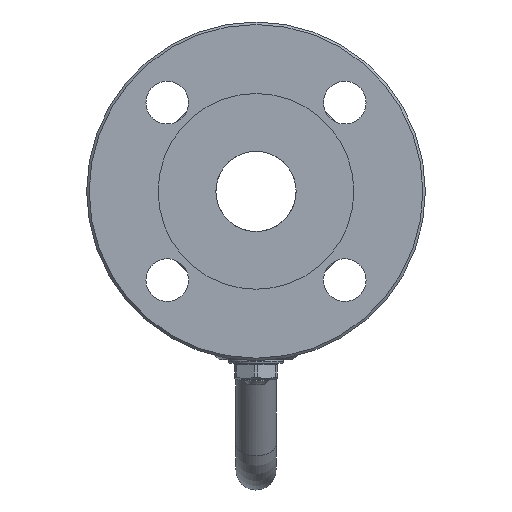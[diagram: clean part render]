
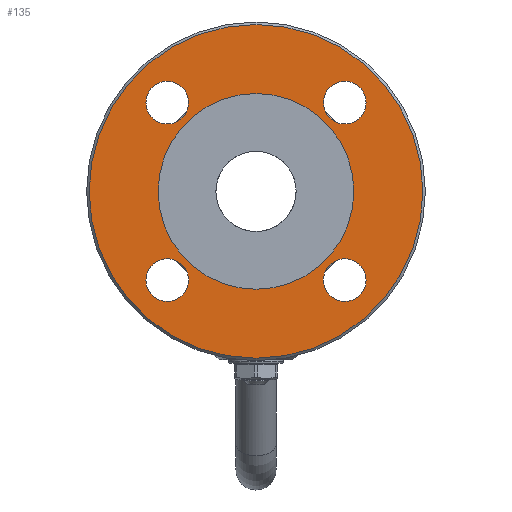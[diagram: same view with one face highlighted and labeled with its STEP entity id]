
A CAD part, left-side view. The second image highlights one B-rep face of the part: STEP entity #135.
In plain terms, the highlighted planar face has unit normal (-1, 0, 0).
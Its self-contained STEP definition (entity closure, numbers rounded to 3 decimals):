
#135=ADVANCED_FACE('',(#1156,#1158,#1160,#1162,#1164,#1166),#1168,.T.);
#1156=FACE_BOUND('',#1157,.T.);
#1157=EDGE_LOOP('',(#2151));
#1158=FACE_BOUND('',#1159,.T.);
#1159=EDGE_LOOP('',(#2152));
#1160=FACE_BOUND('',#1161,.T.);
#1161=EDGE_LOOP('',(#2153));
#1162=FACE_BOUND('',#1163,.T.);
#1163=EDGE_LOOP('',(#2154));
#1164=FACE_BOUND('',#1165,.T.);
#1165=EDGE_LOOP('',(#2155));
#1166=FACE_OUTER_BOUND('',#1167,.T.);
#1167=EDGE_LOOP('',(#2156));
#1168=PLANE('',#1169);
#1169=AXIS2_PLACEMENT_3D('',#1170,#1171,#1172);
#1170=CARTESIAN_POINT('',(-67.,0.,0.));
#1171=DIRECTION('',(-1.,0.,0.));
#1172=DIRECTION('',(0.,-1.,0.));
#2151=ORIENTED_EDGE('',*,*,#3228,.T.);
#2152=ORIENTED_EDGE('',*,*,#3229,.T.);
#2153=ORIENTED_EDGE('',*,*,#3230,.T.);
#2154=ORIENTED_EDGE('',*,*,#3231,.T.);
#2155=ORIENTED_EDGE('',*,*,#3220,.T.);
#2156=ORIENTED_EDGE('',*,*,#3232,.T.);
#3220=EDGE_CURVE('',#3536,#3536,#3538,.T.);
#3228=EDGE_CURVE('',#3550,#3550,#3551,.T.);
#3229=EDGE_CURVE('',#3552,#3552,#3553,.T.);
#3230=EDGE_CURVE('',#3554,#3554,#3555,.T.);
#3231=EDGE_CURVE('',#3556,#3556,#3557,.T.);
#3232=EDGE_CURVE('',#3558,#3558,#3559,.T.);
#3536=VERTEX_POINT('',#4561);
#3538=CIRCLE('',#4565,39.);
#3550=VERTEX_POINT('',#4598);
#3551=CIRCLE('',#4599,8.5);
#3552=VERTEX_POINT('',#4603);
#3553=CIRCLE('',#4604,8.5);
#3554=VERTEX_POINT('',#4608);
#3555=CIRCLE('',#4609,8.5);
#3556=VERTEX_POINT('',#4613);
#3557=CIRCLE('',#4614,8.5);
#3558=VERTEX_POINT('',#4618);
#3559=CIRCLE('',#4619,66.5);
#4561=CARTESIAN_POINT('',(-67.,39.,0.));
#4565=AXIS2_PLACEMENT_3D('',#4566,#4567,#4568);
#4566=CARTESIAN_POINT('',(-67.,0.,0.));
#4567=DIRECTION('',(1.,0.,-0.));
#4568=DIRECTION('',(0.,1.,0.));
#4598=CARTESIAN_POINT('',(-67.,35.355,-43.855));
#4599=AXIS2_PLACEMENT_3D('',#4600,#4601,#4602);
#4600=CARTESIAN_POINT('',(-67.,35.355,-35.355));
#4601=DIRECTION('',(1.,0.,-0.));
#4602=DIRECTION('',(0.,0.,-1.));
#4603=CARTESIAN_POINT('',(-67.,43.855,35.355));
#4604=AXIS2_PLACEMENT_3D('',#4605,#4606,#4607);
#4605=CARTESIAN_POINT('',(-67.,35.355,35.355));
#4606=DIRECTION('',(1.,0.,-0.));
#4607=DIRECTION('',(0.,1.,0.));
#4608=CARTESIAN_POINT('',(-67.,-35.355,43.855));
#4609=AXIS2_PLACEMENT_3D('',#4610,#4611,#4612);
#4610=CARTESIAN_POINT('',(-67.,-35.355,35.355));
#4611=DIRECTION('',(1.,0.,-0.));
#4612=DIRECTION('',(0.,0.,1.));
#4613=CARTESIAN_POINT('',(-67.,-43.855,-35.355));
#4614=AXIS2_PLACEMENT_3D('',#4615,#4616,#4617);
#4615=CARTESIAN_POINT('',(-67.,-35.355,-35.355));
#4616=DIRECTION('',(1.,0.,-0.));
#4617=DIRECTION('',(0.,-1.,0.));
#4618=CARTESIAN_POINT('',(-67.,-66.5,0.));
#4619=AXIS2_PLACEMENT_3D('',#4620,#4621,#4622);
#4620=CARTESIAN_POINT('',(-67.,0.,0.));
#4621=DIRECTION('',(-1.,0.,0.));
#4622=DIRECTION('',(0.,-1.,0.));
